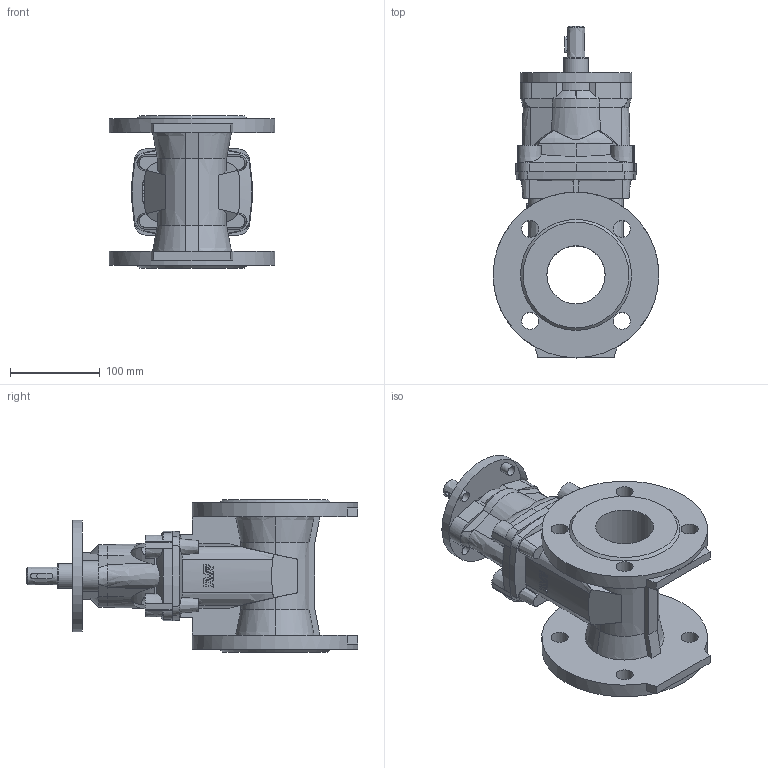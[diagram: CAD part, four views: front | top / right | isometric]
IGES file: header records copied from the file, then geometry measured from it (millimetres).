
Start section: SolidWorks IGES file using analytic representation for surfaces
Global section: file name: \\avksan2\techshare\PBM outline export from Enovia\O_15_42_DN065_X1X_AA0.igs; native system: SolidWorks 2012; preprocessor: SolidWorks 2012; author: pbm; date: 170310.090811; units: millimetre
Bounding box: 185 x 370.5 x 170 mm (x, y, z)
Surface area: 288539.4 mm2 (no closed solid volume)
Topology: 0 solids, 0 shells, 307 faces, 1702 edges, 1661 vertices
Faces by surface type: bspline 156, revolution 151
